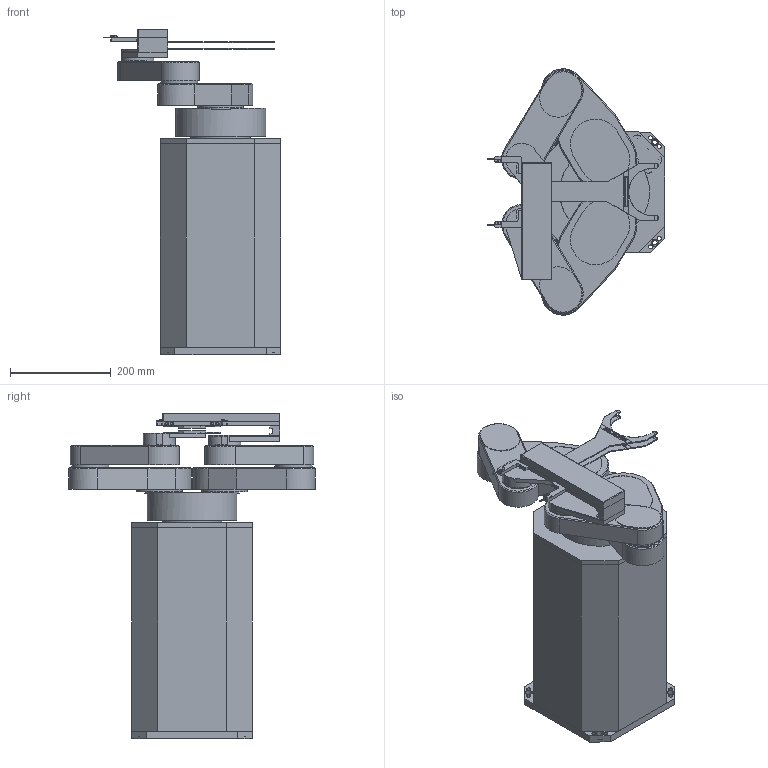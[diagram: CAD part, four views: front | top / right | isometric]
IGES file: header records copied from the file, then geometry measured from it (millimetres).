
Global section: file name: STCR4160S-300-PM-10773; native system: Autodesk Inventor 2016; preprocessor: unknown; author: JEL; date: 20150727.135303; units: millimetre
Bounding box: 353.99 x 490.17 x 648 mm (x, y, z)
Volume: 28491837 mm3; surface area: 1224276.5 mm2
Topology: 12 solids, 12 shells, 526 faces, 1321 edges, 876 vertices
Faces by surface type: bspline 526
